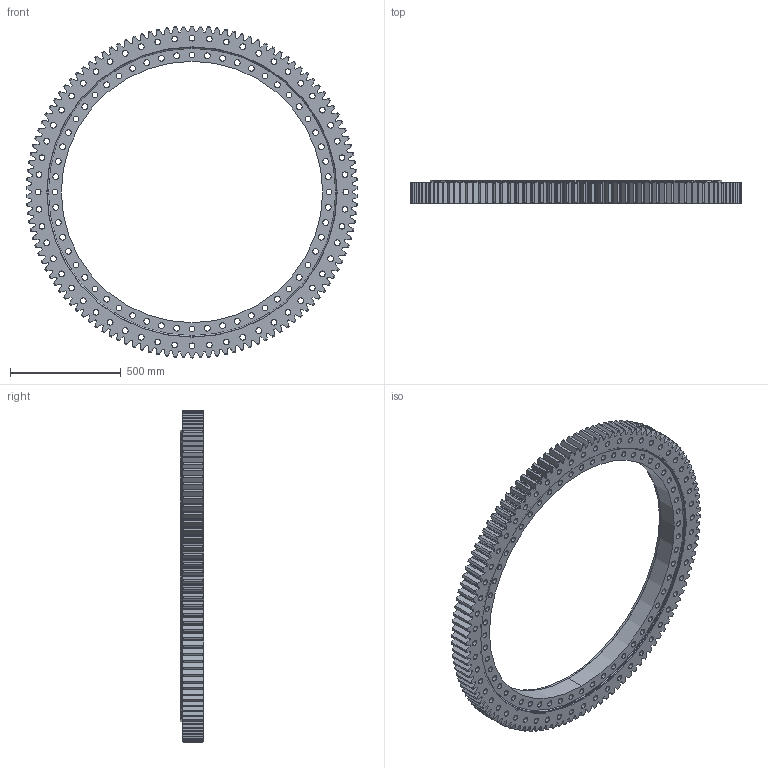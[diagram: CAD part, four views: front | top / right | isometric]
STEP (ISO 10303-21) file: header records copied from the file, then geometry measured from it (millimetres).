
FILE_DESCRIPTION (( 'STEP AP203' ), '1' );
FILE_NAME ('B2225-2-1498AA.STEP', '2022-07-06T15:09:39', ( '' ), ( '' ), 'SwSTEP 2.0', 'SolidWorks 2020', '' );
FILE_SCHEMA (( 'CONFIG_CONTROL_DESIGN' ));
Length unit declared in the file: millimetre
Products named in the file (1): B2225-2-1498AA
Bounding box: 1497.33 x 105 x 1497.6 mm (x, y, z)
Volume: 52566079.8 mm3; surface area: 4355311.6 mm2
Topology: 4 solids, 4 shells, 1128 faces, 3334 edges, 2221 vertices
Faces by surface type: cylinder 371, plane 259, cone 254, bspline 244
Entity records: 39350 total; most frequent: CARTESIAN_POINT 10344, ORIENTED_EDGE 6668, DIRECTION 5129, EDGE_CURVE 3334, VERTEX_POINT 2221, AXIS2_PLACEMENT_3D 1886, EDGE_LOOP 1367, LINE 1357
